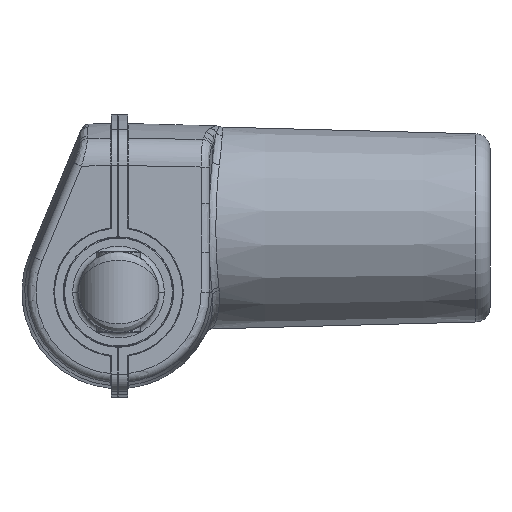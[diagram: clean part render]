
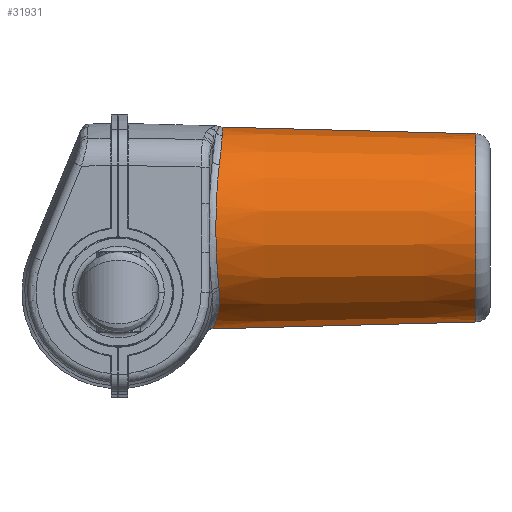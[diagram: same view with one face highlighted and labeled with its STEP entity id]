
A CAD part, left-side view. The second image highlights one B-rep face of the part: STEP entity #31931.
In plain terms, the highlighted conical face has half-angle 1.5 degrees and reference radius 33.824 mm.
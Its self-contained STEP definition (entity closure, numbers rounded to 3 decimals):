
#7695=CARTESIAN_POINT('',(0.,-32.536,
-34.821));
#7696=CARTESIAN_POINT('',(-2.41,-32.536,
-34.821));
#7697=CARTESIAN_POINT('',(-7.23,-32.8,
-34.313));
#7698=CARTESIAN_POINT('',(-11.817,-33.47,
-32.828));
#7699=CARTESIAN_POINT('',(-14.007,-33.84,
-31.86));
#7701=CARTESIAN_POINT('',(-14.007,-33.84,
-31.86));
#7702=CARTESIAN_POINT('',(-16.566,-34.272,
-30.73));
#7703=CARTESIAN_POINT('',(-21.444,-34.998,
-27.844));
#7704=CARTESIAN_POINT('',(-25.543,-35.111,
-23.828));
#7705=CARTESIAN_POINT('',(-27.32,-34.919,
-21.611));
#7707=CARTESIAN_POINT('',(-27.32,-34.919,
-21.611));
#7708=CARTESIAN_POINT('',(-27.595,-34.889,
-21.268));
#7709=CARTESIAN_POINT('',(-27.864,-34.855,
-20.919));
#7710=CARTESIAN_POINT('',(-28.126,-34.816,
-20.566));
#7712=CARTESIAN_POINT('',(-28.126,-34.816,
-20.566));
#7713=CARTESIAN_POINT('',(-30.395,-34.474,
-17.507));
#7714=CARTESIAN_POINT('',(-33.93,-33.942,
-10.628));
#7715=CARTESIAN_POINT('',(-35.617,-33.688,
0.875));
#7716=CARTESIAN_POINT('',(-33.494,-34.008,
12.303));
#7717=CARTESIAN_POINT('',(-29.702,-34.578,
19.041));
#7718=CARTESIAN_POINT('',(-27.319,-34.937,
22.011));
#7720=CARTESIAN_POINT('',(-27.319,-34.937,
22.011));
#7721=CARTESIAN_POINT('',(-25.562,-35.202,
24.201));
#7722=CARTESIAN_POINT('',(-21.51,-35.705,
28.166));
#7723=CARTESIAN_POINT('',(-16.598,-35.934,
31.066));
#7724=CARTESIAN_POINT('',(-14.005,-35.935,
32.202));
#7726=CARTESIAN_POINT('',(0.,-35.935,0.2));
#7727=DIRECTION('',(0.,1.,0.));
#7728=DIRECTION('',(-0.401,0.,0.916));
#7729=AXIS2_PLACEMENT_3D('',#7726,#7727,#7728);
#7778=CARTESIAN_POINT('',(-27.319,-34.937,
22.011));
#8060=DIRECTION('',(0.,-1.,0.026));
#8061=VECTOR('',#8060,91.427);
#8062=CARTESIAN_POINT('',(0.,-32.536,
-34.821));
#8063=LINE('',#8062,#8061);
#8064=DIRECTION('',(0.,1.,0.026));
#8065=VECTOR('',#8064,88.026);
#8066=CARTESIAN_POINT('',(0.,-123.931,32.828));
#8067=LINE('',#8066,#8065);
#8136=CARTESIAN_POINT('',(0.,-123.931,0.2));
#8137=DIRECTION('',(0.,1.,0.));
#8138=DIRECTION('',(0.,0.,-1.));
#8139=AXIS2_PLACEMENT_3D('',#8136,#8137,#8138);
#8141=CARTESIAN_POINT('',(0.,-123.931,0.2));
#8142=DIRECTION('',(0.,1.,0.));
#8143=DIRECTION('',(-0.015,0.,-1.));
#8144=AXIS2_PLACEMENT_3D('',#8141,#8142,#8143);
#12162=CARTESIAN_POINT('',(0.,-35.935,35.132));
#12164=VERTEX_POINT('',#12162);
#12166=CARTESIAN_POINT('',(-14.006,-35.935,
32.201));
#12167=VERTEX_POINT('',#12166);
#12171=VERTEX_POINT('',#7778);
#12172=VERTEX_POINT('',#7695);
#12173=VERTEX_POINT('',#7699);
#12174=VERTEX_POINT('',#7705);
#12175=VERTEX_POINT('',#7710);
#12176=CARTESIAN_POINT('',(0.,-123.931,
-32.428));
#12177=VERTEX_POINT('',#12176);
#12192=CARTESIAN_POINT('',(0.,-123.931,32.828));
#12193=VERTEX_POINT('',#12192);
#12204=CARTESIAN_POINT('',(-0.484,-123.931,
-32.424));
#12205=VERTEX_POINT('',#12204);
#31906=CARTESIAN_POINT('',(0.,-78.233,0.2));
#31907=DIRECTION('',(0.,1.,0.));
#31908=DIRECTION('',(0.,0.,1.));
#31909=AXIS2_PLACEMENT_3D('',#31906,#31907,#31908);
#31910=CONICAL_SURFACE('',#31909,33.824,1.5);
#31912=ORIENTED_EDGE('',*,*,#31911,.T.);
#31914=ORIENTED_EDGE('',*,*,#31913,.T.);
#31916=ORIENTED_EDGE('',*,*,#31915,.T.);
#31918=ORIENTED_EDGE('',*,*,#31917,.T.);
#31919=ORIENTED_EDGE('',*,*,#31897,.T.);
#31920=ORIENTED_EDGE('',*,*,#31672,.T.);
#31922=ORIENTED_EDGE('',*,*,#31921,.F.);
#31924=ORIENTED_EDGE('',*,*,#31923,.F.);
#31926=ORIENTED_EDGE('',*,*,#31925,.F.);
#31928=ORIENTED_EDGE('',*,*,#31927,.F.);
#31929=EDGE_LOOP('',(#31912,#31914,#31916,#31918,#31919,#31920,#31922,#31924,
#31926,#31928));
#31930=FACE_OUTER_BOUND('',#31929,.F.);
#31931=ADVANCED_FACE('',(#31930),#31910,.T.);
#7700=B_SPLINE_CURVE_WITH_KNOTS('',3,(#7695,#7696,#7697,#7698,#7699),
.UNSPECIFIED.,.F.,.F.,(4,1,4),(0.,0.5,1.),.UNSPECIFIED.);
#7706=B_SPLINE_CURVE_WITH_KNOTS('',3,(#7701,#7702,#7703,#7704,#7705),
.UNSPECIFIED.,.F.,.F.,(4,1,4),(0.,0.5,1.),.UNSPECIFIED.);
#7711=B_SPLINE_CURVE_WITH_KNOTS('',3,(#7707,#7708,#7709,#7710),.UNSPECIFIED.,
.F.,.F.,(4,4),(0.,1.),.UNSPECIFIED.);
#7719=B_SPLINE_CURVE_WITH_KNOTS('',3,(#7712,#7713,#7714,#7715,#7716,#7717,
#7718),.UNSPECIFIED.,.F.,.F.,(4,1,1,1,4),(0.,0.25,0.5,0.75,1.),
.UNSPECIFIED.);
#7725=B_SPLINE_CURVE_WITH_KNOTS('',3,(#7720,#7721,#7722,#7723,#7724),
.UNSPECIFIED.,.F.,.F.,(4,1,4),(0.,0.5,1.),.UNSPECIFIED.);
#7730=CIRCLE('',#7729,34.932);
#8140=CIRCLE('',#8139,32.628);
#8145=CIRCLE('',#8144,32.628);
#31672=EDGE_CURVE('',#12167,#12164,#7730,.T.);
#31897=EDGE_CURVE('',#12171,#12167,#7725,.T.);
#31911=EDGE_CURVE('',#12172,#12173,#7700,.T.);
#31913=EDGE_CURVE('',#12173,#12174,#7706,.T.);
#31915=EDGE_CURVE('',#12174,#12175,#7711,.T.);
#31917=EDGE_CURVE('',#12175,#12171,#7719,.T.);
#31921=EDGE_CURVE('',#12193,#12164,#8067,.T.);
#31923=EDGE_CURVE('',#12205,#12193,#8145,.T.);
#31925=EDGE_CURVE('',#12177,#12205,#8140,.T.);
#31927=EDGE_CURVE('',#12172,#12177,#8063,.T.);
